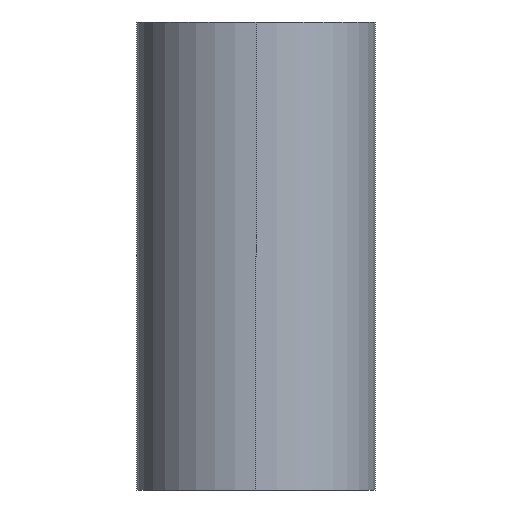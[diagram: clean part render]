
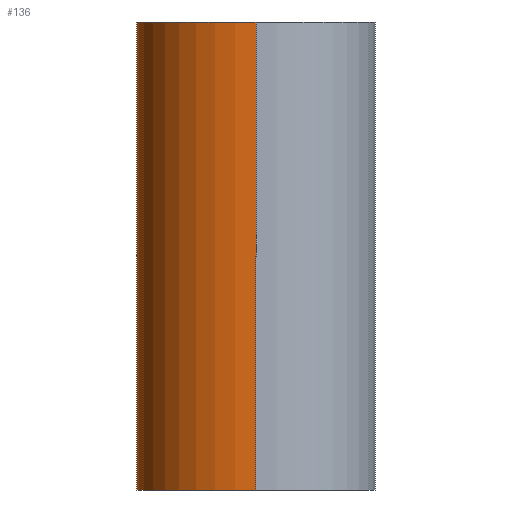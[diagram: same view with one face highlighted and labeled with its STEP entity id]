
A CAD part, left-side view. The second image highlights one B-rep face of the part: STEP entity #136.
In plain terms, the highlighted cylindrical face has radius 29 mm (diameter 58 mm), a partial arc.
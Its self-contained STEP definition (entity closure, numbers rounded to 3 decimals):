
#52=CARTESIAN_POINT('Axis2P3D Location',(-26.,0.,0.)) ;
#57=CARTESIAN_POINT('Line Origine',(3.,0.,0.)) ;
#61=CARTESIAN_POINT('Vertex',(3.,0.,-57.)) ;
#63=CARTESIAN_POINT('Vertex',(3.,0.,-29.)) ;
#66=CARTESIAN_POINT('Axis2P3D Location',(-26.,0.,-57.)) ;
#70=CARTESIAN_POINT('Vertex',(-55.,0.,-57.)) ;
#73=CARTESIAN_POINT('Line Origine',(-55.,0.,0.)) ;
#77=CARTESIAN_POINT('Vertex',(-55.,0.,57.)) ;
#80=CARTESIAN_POINT('Axis2P3D Location',(-26.,0.,57.)) ;
#84=CARTESIAN_POINT('Vertex',(3.,0.,57.)) ;
#87=CARTESIAN_POINT('Line Origine',(3.,0.,0.)) ;
#91=CARTESIAN_POINT('Vertex',(3.,0.,29.)) ;
#95=CARTESIAN_POINT('Control Point',(3.,0.,29.)) ;
#96=CARTESIAN_POINT('Control Point',(3.,2.226,29.)) ;
#97=CARTESIAN_POINT('Control Point',(2.786,4.452,28.786)) ;
#98=CARTESIAN_POINT('Control Point',(2.359,6.643,28.359)) ;
#99=CARTESIAN_POINT('Control Point',(1.1,10.89,27.1)) ;
#100=CARTESIAN_POINT('Control Point',(-0.899,14.765,25.101)) ;
#101=CARTESIAN_POINT('Control Point',(-2.067,16.586,23.933)) ;
#102=CARTESIAN_POINT('Control Point',(-4.915,20.237,21.085)) ;
#103=CARTESIAN_POINT('Control Point',(-8.35,23.202,17.65)) ;
#104=CARTESIAN_POINT('Control Point',(-10.34,24.585,15.66)) ;
#105=CARTESIAN_POINT('Control Point',(-14.538,26.901,11.462)) ;
#106=CARTESIAN_POINT('Control Point',(-19.048,28.301,6.952)) ;
#107=CARTESIAN_POINT('Control Point',(-21.351,28.767,4.649)) ;
#108=CARTESIAN_POINT('Control Point',(-23.676,29.,2.324)) ;
#109=CARTESIAN_POINT('Control Point',(-26.,29.,0.)) ;
#110=CARTESIAN_POINT('Vertex',(-26.,29.,0.)) ;
#114=CARTESIAN_POINT('Control Point',(-26.,29.,0.)) ;
#115=CARTESIAN_POINT('Control Point',(-23.623,29.,-2.377)) ;
#116=CARTESIAN_POINT('Control Point',(-21.246,28.756,-4.754)) ;
#117=CARTESIAN_POINT('Control Point',(-18.891,28.269,-7.11)) ;
#118=CARTESIAN_POINT('Control Point',(-14.284,26.804,-11.716)) ;
#119=CARTESIAN_POINT('Control Point',(-10.012,24.381,-15.987)) ;
#120=CARTESIAN_POINT('Control Point',(-7.993,22.936,-18.007)) ;
#121=CARTESIAN_POINT('Control Point',(-3.077,18.548,-22.923)) ;
#122=CARTESIAN_POINT('Control Point',(0.571,12.735,-26.571)) ;
#123=CARTESIAN_POINT('Control Point',(2.191,8.666,-28.191)) ;
#124=CARTESIAN_POINT('Control Point',(3.,4.333,-29.)) ;
#125=CARTESIAN_POINT('Control Point',(3.,0.,-29.)) ;
#53=DIRECTION('Axis2P3D Direction',(0.,0.,-1.)) ;
#54=DIRECTION('Axis2P3D XDirection',(-1.,0.,0.)) ;
#58=DIRECTION('Vector Direction',(0.,0.,-1.)) ;
#67=DIRECTION('Axis2P3D Direction',(0.,0.,-1.)) ;
#74=DIRECTION('Vector Direction',(0.,0.,-1.)) ;
#81=DIRECTION('Axis2P3D Direction',(0.,0.,-1.)) ;
#88=DIRECTION('Vector Direction',(0.,0.,-1.)) ;
#55=AXIS2_PLACEMENT_3D('Cylinder Axis2P3D',#52,#53,#54) ;
#68=AXIS2_PLACEMENT_3D('Circle Axis2P3D',#66,#67,$) ;
#82=AXIS2_PLACEMENT_3D('Circle Axis2P3D',#80,#81,$) ;
#128=ORIENTED_EDGE('',*,*,#65,.F.) ;
#129=ORIENTED_EDGE('',*,*,#72,.F.) ;
#130=ORIENTED_EDGE('',*,*,#79,.F.) ;
#131=ORIENTED_EDGE('',*,*,#86,.F.) ;
#132=ORIENTED_EDGE('',*,*,#93,.F.) ;
#133=ORIENTED_EDGE('',*,*,#112,.T.) ;
#134=ORIENTED_EDGE('',*,*,#126,.T.) ;
#59=VECTOR('Line Direction',#58,1.) ;
#75=VECTOR('Line Direction',#74,1.) ;
#89=VECTOR('Line Direction',#88,1.) ;
#136=ADVANCED_FACE('2',(#135),#56,.T.) ;
#94=B_SPLINE_CURVE_WITH_KNOTS('',5,(#95,#96,#97,#98,#99,#100,#101,#102,#103,#104,#105,#106,#107,#108,#109),.UNSPECIFIED.,.F.,.U.,(6,3,3,3,6),(0.,22.261,44.522,70.51,96.497),.UNSPECIFIED.) ;
#113=B_SPLINE_CURVE_WITH_KNOTS('',5,(#114,#115,#116,#117,#118,#119,#120,#121,#122,#123,#124,#125),.UNSPECIFIED.,.F.,.U.,(6,3,3,6),(0.,26.578,53.157,96.489),.UNSPECIFIED.) ;
#69=CIRCLE('generated circle',#68,29.) ;
#83=CIRCLE('generated circle',#82,29.) ;
#56=CYLINDRICAL_SURFACE('generated cylinder',#55,29.) ;
#65=EDGE_CURVE('',#62,#64,#60,.F.) ;
#72=EDGE_CURVE('',#71,#62,#69,.T.) ;
#79=EDGE_CURVE('',#78,#71,#76,.T.) ;
#86=EDGE_CURVE('',#85,#78,#83,.F.) ;
#93=EDGE_CURVE('',#92,#85,#90,.F.) ;
#112=EDGE_CURVE('',#92,#111,#94,.T.) ;
#126=EDGE_CURVE('',#111,#64,#113,.T.) ;
#127=EDGE_LOOP('',(#128,#129,#130,#131,#132,#133,#134)) ;
#135=FACE_OUTER_BOUND('',#127,.T.) ;
#60=LINE('Line',#57,#59) ;
#76=LINE('Line',#73,#75) ;
#90=LINE('Line',#87,#89) ;
#62=VERTEX_POINT('',#61) ;
#64=VERTEX_POINT('',#63) ;
#71=VERTEX_POINT('',#70) ;
#78=VERTEX_POINT('',#77) ;
#85=VERTEX_POINT('',#84) ;
#92=VERTEX_POINT('',#91) ;
#111=VERTEX_POINT('',#110) ;
